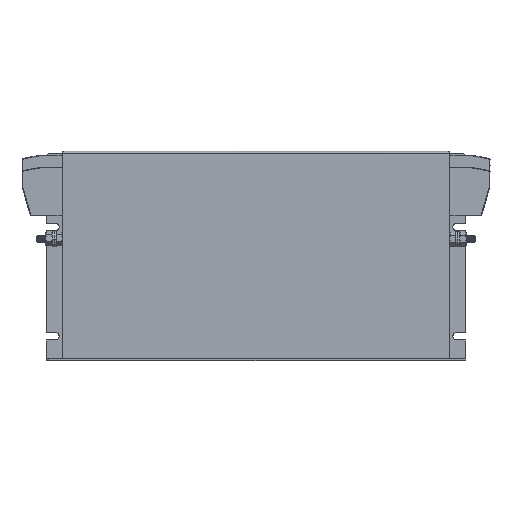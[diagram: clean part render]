
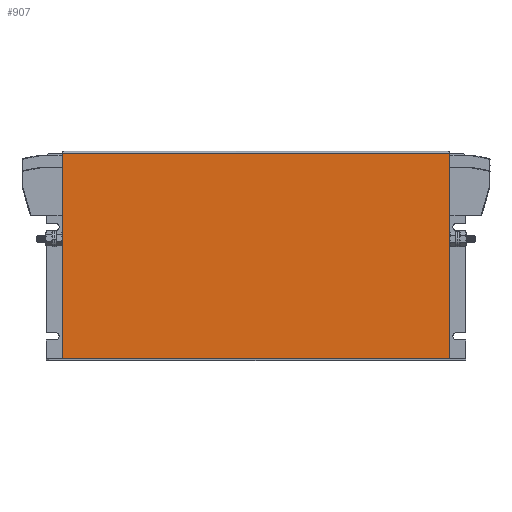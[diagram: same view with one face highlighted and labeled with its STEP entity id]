
A CAD part, top view. The second image highlights one B-rep face of the part: STEP entity #907.
In plain terms, the highlighted planar face has unit normal (0, 0, 1).
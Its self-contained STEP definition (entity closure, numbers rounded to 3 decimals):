
#37 = DIRECTION ( 'NONE',  ( -1., 0., 0. ) ) ;
#907 = ADVANCED_FACE ( 'NONE', ( #10835 ), #19550, .F. ) ;
#1347 = VERTEX_POINT ( 'NONE', #16453 ) ;
#2181 = LINE ( 'NONE', #13823, #17697 ) ;
#3268 = DIRECTION ( 'NONE',  ( 0., -1., 0. ) ) ;
#3293 = EDGE_CURVE ( 'NONE', #10401, #1347, #2181, .T. ) ;
#4314 = CARTESIAN_POINT ( 'NONE',  ( 13., 1.5, 1.5 ) ) ;
#4344 = DIRECTION ( 'NONE',  ( 0., 0., -1. ) ) ;
#4494 = EDGE_CURVE ( 'NONE', #7123, #7859, #15987, .T. ) ;
#4857 = CARTESIAN_POINT ( 'NONE',  ( 13., 172., 1.5 ) ) ;
#5293 = VECTOR ( 'NONE', #7309, 1000. ) ;
#5385 = AXIS2_PLACEMENT_3D ( 'NONE', #21315, #4344, #21613 ) ;
#7123 = VERTEX_POINT ( 'NONE', #8152 ) ;
#7309 = DIRECTION ( 'NONE',  ( 0., -1., 0. ) ) ;
#7782 = ORIENTED_EDGE ( 'NONE', *, *, #10832, .F. ) ;
#7859 = VERTEX_POINT ( 'NONE', #8194 ) ;
#8152 = CARTESIAN_POINT ( 'NONE',  ( 332., 170.5, 1.5 ) ) ;
#8194 = CARTESIAN_POINT ( 'NONE',  ( 13., 170.5, 1.5 ) ) ;
#10384 = ORIENTED_EDGE ( 'NONE', *, *, #4494, .T. ) ;
#10401 = VERTEX_POINT ( 'NONE', #4314 ) ;
#10641 = DIRECTION ( 'NONE',  ( 1., 0., 0. ) ) ;
#10832 = EDGE_CURVE ( 'NONE', #7123, #1347, #21271, .T. ) ;
#10835 = FACE_OUTER_BOUND ( 'NONE', #11681, .T. ) ;
#11681 = EDGE_LOOP ( 'NONE', ( #7782, #10384, #22097, #14296 ) ) ;
#13823 = CARTESIAN_POINT ( 'NONE',  ( 13., 1.5, 1.5 ) ) ;
#14296 = ORIENTED_EDGE ( 'NONE', *, *, #3293, .T. ) ;
#15987 = LINE ( 'NONE', #17280, #16238 ) ;
#16238 = VECTOR ( 'NONE', #37, 1000. ) ;
#16453 = CARTESIAN_POINT ( 'NONE',  ( 332., 1.5, 1.5 ) ) ;
#17280 = CARTESIAN_POINT ( 'NONE',  ( 13., 170.5, 1.5 ) ) ;
#17697 = VECTOR ( 'NONE', #10641, 1000. ) ;
#18201 = LINE ( 'NONE', #4857, #21598 ) ;
#19550 = PLANE ( 'NONE',  #5385 ) ;
#19888 = EDGE_CURVE ( 'NONE', #7859, #10401, #18201, .T. ) ;
#20676 = CARTESIAN_POINT ( 'NONE',  ( 332., 172., 1.5 ) ) ;
#21271 = LINE ( 'NONE', #20676, #5293 ) ;
#21315 = CARTESIAN_POINT ( 'NONE',  ( 13., 172., 1.5 ) ) ;
#21598 = VECTOR ( 'NONE', #3268, 1000. ) ;
#21613 = DIRECTION ( 'NONE',  ( -1., 0., 0. ) ) ;
#22097 = ORIENTED_EDGE ( 'NONE', *, *, #19888, .T. ) ;
